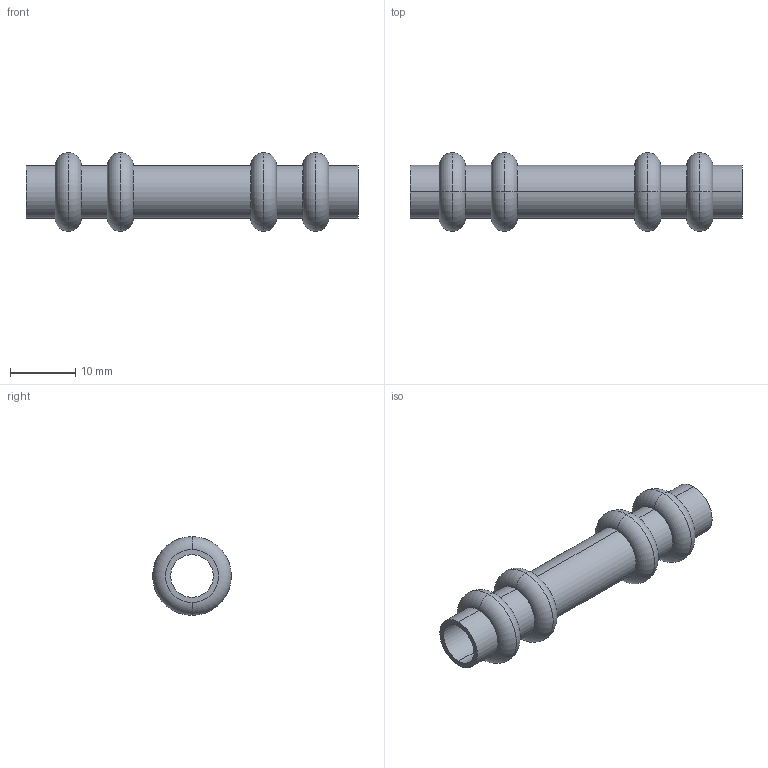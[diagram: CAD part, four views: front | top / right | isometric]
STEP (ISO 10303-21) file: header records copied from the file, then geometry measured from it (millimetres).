
FILE_DESCRIPTION(('starvars output'),'1');
FILE_NAME('cv20240422105136000011545.stp','10:51:37 2024/04/22',('Thomas Industrial Network Germany GmbH'),(' '),'Spatial InterOp 3D',' ',' ');
FILE_SCHEMA(('AUTOMOTIVE_DESIGN { 1 0 10303 214 3 1 1 }'));
Length unit declared in the file: millimetre
Products named in the file (1): 1
Bounding box: 51 x 12.1 x 12.1 mm (x, y, z)
Volume: 1332.7 mm3; surface area: 3202.4 mm2
Topology: 1 solids, 1 shells, 70 faces, 140 edges, 88 vertices
Faces by surface type: torus 32, cylinder 20, plane 18
Entity records: 2464 total; most frequent: DIRECTION 402, CARTESIAN_POINT 299, ORIENTED_EDGE 280, AXIS2_PLACEMENT_3D 191, EDGE_CURVE 140, CIRCLE 120, EDGE_LOOP 88, VERTEX_POINT 88
